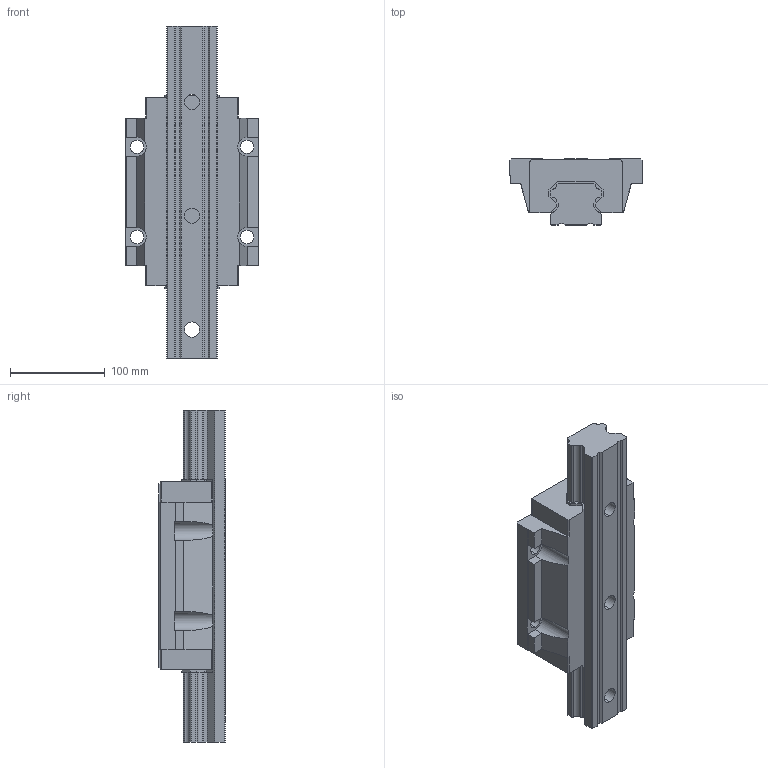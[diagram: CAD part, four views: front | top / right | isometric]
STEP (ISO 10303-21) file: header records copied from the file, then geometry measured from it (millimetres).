
FILE_DESCRIPTION (( 'STEP AP214' ), '1' );
FILE_NAME ('2.1014 Lineaarikelkka HGW55HA.STEP', '2025-09-19T06:43:46', ( '' ), ( '' ), 'SwSTEP 2.0', 'SolidWorks 2025', '' );
FILE_SCHEMA (( 'AUTOMOTIVE_DESIGN' ));
Length unit declared in the file: millimetre
Products named in the file (1): 2.1014 Lineaarikelkka HGW55HA
Bounding box: 140 x 70 x 350 mm (x, y, z)
Volume: 1682869.1 mm3; surface area: 184498.7 mm2
Topology: 2 solids, 2 shells, 175 faces, 504 edges, 336 vertices
Faces by surface type: plane 139, cylinder 36
Entity records: 7675 total; most frequent: CARTESIAN_POINT 1040, ORIENTED_EDGE 1008, DIRECTION 920, EDGE_CURVE 504, VECTOR 424, LINE 424, VERTEX_POINT 336, AXIS2_PLACEMENT_3D 248
